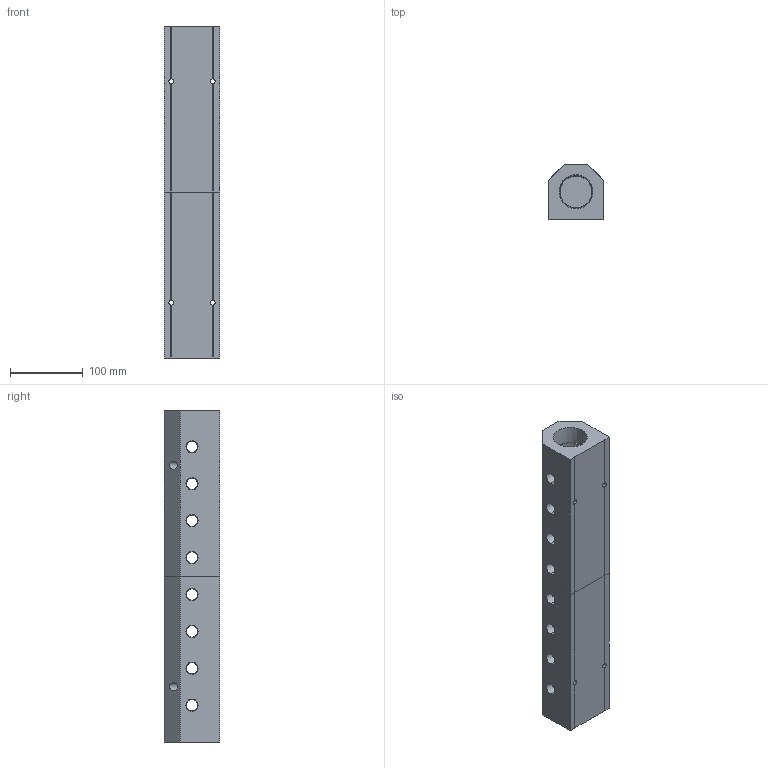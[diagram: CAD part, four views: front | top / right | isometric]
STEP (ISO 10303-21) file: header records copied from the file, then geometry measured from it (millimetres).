
FILE_DESCRIPTION (( 'STEP AP214' ), '1' );
FILE_NAME ('ALM8ACE-N6N24-457RB.step', '2022-02-07T09:16:13', ( '' ), ( '' ), 'SwSTEP 2.0', 'SolidWorks 2020', '' );
FILE_SCHEMA (( 'AUTOMOTIVE_DESIGN' ));
Length unit declared in the file: millimetre
Products named in the file (1): ALM8ACE-N6N24-457RB
Bounding box: 76.2 x 76.2 x 457 mm (x, y, z)
Volume: 1625435.6 mm3; surface area: 227704.6 mm2
Topology: 2 solids, 2 shells, 390 faces, 1049 edges, 686 vertices
Faces by surface type: plane 252, bspline 66, cone 52, cylinder 20
Entity records: 22150 total; most frequent: CARTESIAN_POINT 9072, ORIENTED_EDGE 2098, DIRECTION 1591, EDGE_CURVE 1049, VECTOR 765, LINE 765, VERTEX_POINT 686, EDGE_LOOP 469
